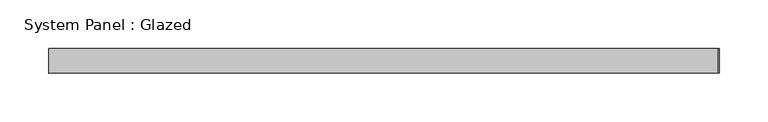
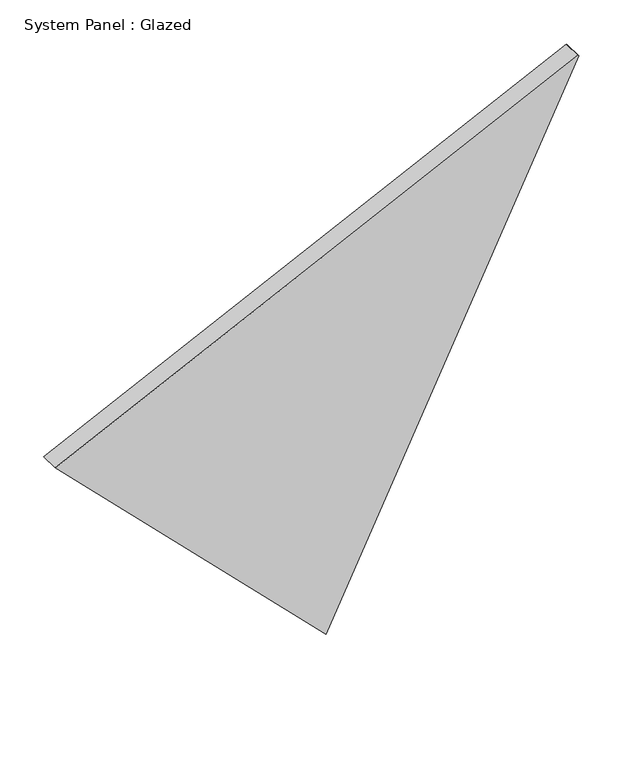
"""IFC4 building model written with IfcOpenShell, lengths in millimetres: plate geometry, System Panel : Glazed."""

from ifc_helpers import new_model, si_unit, frame, origin, place, context, project, spatial, polyline, outline, extrude, source, transform, mapped, element, save


def system_panel_glazed_c068685c(model_context):
    return source(origin(), model_context, "Body", "SweptSolid", [
        extrude(outline(polyline([(356.0005126, -344.0218521), (0.0, 11.8201392), (686.710746, 344.0218521), (687.8963433, 342.8367828), (356.0005126, -344.0218521)])), frame((0.0, -44.45, 0.0), z_axis=(0.0, 1.0, 0.0), x_axis=(0.0, 0.0, 1.0)), (0.0, 0.0, 1.0), 25.4),
    ])


if __name__ == "__main__":
    model = new_model("IFC4")
    model_context = context("Model", 3, world=origin())
    ifc_project = project(units=[si_unit("LENGTHUNIT", "METRE", prefix="MILLI")], contexts=[model_context])
    site = spatial("IfcSite", under=ifc_project)
    building = spatial("IfcBuilding", under=site)
    placement = place(None, origin())
    system_panel_glazed_shape = system_panel_glazed_c068685c(model_context)
    element("IfcPlate", 1, ObjectType="System Panel : Glazed", at=placement, inside=building, context=model_context, shape_type="MappedRepresentation", body=[
        mapped(system_panel_glazed_shape, transform((0.0, 0.0, 0.0), x_axis=(1.0, 0.0, 0.0), y_axis=(0.0, 1.0, 0.0), z_axis=(0.0, 0.0, 1.0))),
    ])
    save(model, "model.ifc")
